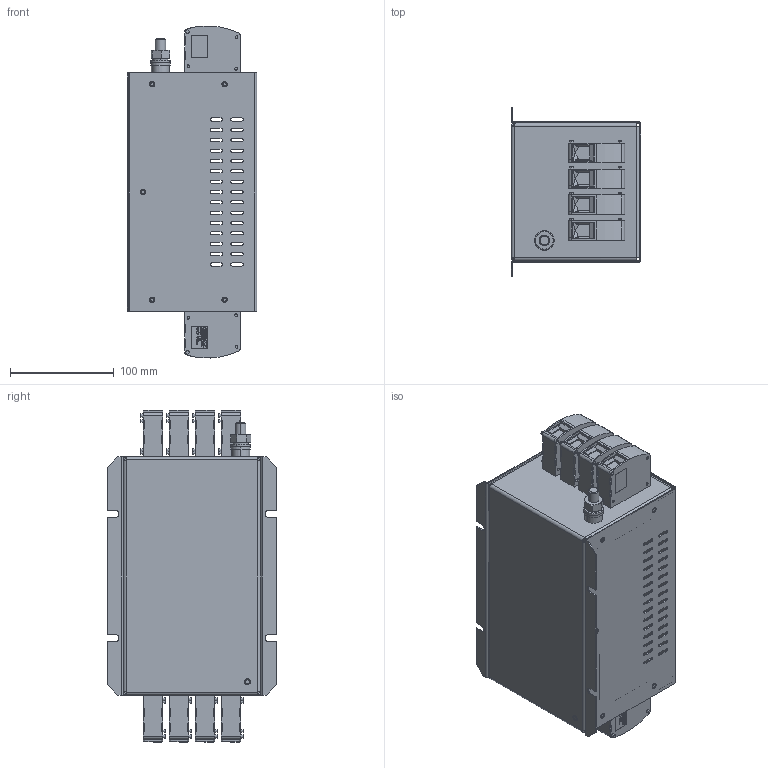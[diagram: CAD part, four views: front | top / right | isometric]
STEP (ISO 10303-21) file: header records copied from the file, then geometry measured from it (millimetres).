
FILE_DESCRIPTION (( 'STEP AP214' ), '1' );
FILE_NAME ('NF-4-80-GTR.STEP', '2026-09-15T11:18:46', ( '' ), ( '' ), 'SwSTEP 2.0', 'SolidWorks 2025', '' );
FILE_SCHEMA (( 'AUTOMOTIVE_DESIGN' ));
Length unit declared in the file: millimetre
Products named in the file (12): 1000-480_B_S; 1_1; FH-M4-10 ZI_2; NF-4-80-GTR(2); ISO 4017 - M10 x 35_1; ANSI B18.22M - 8 N; NF-4-80-GTR; UW_50-POT_S-A-select; JIS B 1181 - HN - class 1 - Finished - M10; KS B 1324 - No. 2 - 8; 1000-480_box_E; IFI 505 - 43, FHSBMBR
Assembly tree (28 placements, depth 3):
  NF-4-80-GTR
    NF-4-80-GTR(2)
      1000-480_box_E
      1000-480_B_S
      UW_50-POT_S-A-select  x8
      ISO 4017 - M10 x 35_1
      IFI 505 - 43, FHSBMBR  x10
      1_1
      JIS B 1181 - HN - class 1 - Finished - M10
      ANSI B18.22M - 8 N  x2
      KS B 1324 - No. 2 - 8
      FH-M4-10 ZI_2
Bounding box: 125 x 163 x 320.51 mm (x, y, z)
Volume: 544937.6 mm3; surface area: 446349.7 mm2
Topology: 27 solids, 33 shells, 7084 faces, 19143 edges, 12688 vertices
Faces by surface type: plane 5474, cylinder 1093, bspline 292, cone 165, torus 60
Entity records: 53428 total; most frequent: CARTESIAN_POINT 11710, ORIENTED_EDGE 8778, DIRECTION 8251, EDGE_CURVE 4389, LINE 3111, VECTOR 3111, VERTEX_POINT 2872, AXIS2_PLACEMENT_3D 2570
